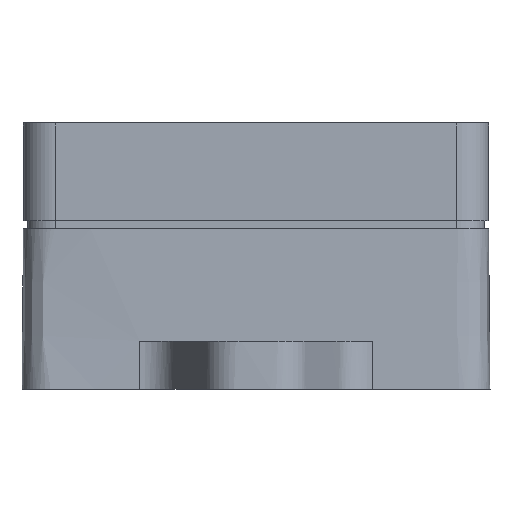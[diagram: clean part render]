
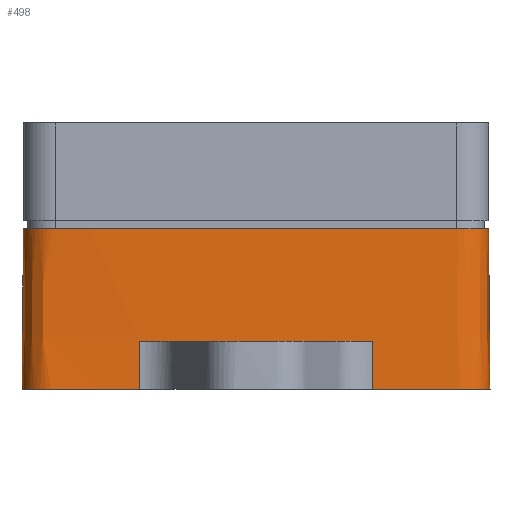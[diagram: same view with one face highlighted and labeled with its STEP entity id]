
A CAD part, left-side view. The second image highlights one B-rep face of the part: STEP entity #498.
In plain terms, the highlighted free-form (B-spline) face has degree [3, 2] with [4, 11] control points.
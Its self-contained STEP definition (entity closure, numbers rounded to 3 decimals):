
#498=ADVANCED_FACE('',(#2118),#25755,.T.);
#2118=FACE_OUTER_BOUND('',#3758,.T.);
#3758=EDGE_LOOP('',(#6687,#6688,#6689,#6690,#6691,#6692,#6693,#6694));
#6687=ORIENTED_EDGE('',*,*,#15810,.T.);
#6688=ORIENTED_EDGE('',*,*,#15812,.T.);
#6689=ORIENTED_EDGE('',*,*,#14602,.T.);
#6690=ORIENTED_EDGE('',*,*,#14631,.F.);
#6691=ORIENTED_EDGE('',*,*,#14604,.T.);
#6692=ORIENTED_EDGE('',*,*,#14793,.T.);
#6693=ORIENTED_EDGE('',*,*,#14627,.F.);
#6694=ORIENTED_EDGE('',*,*,#14629,.T.);
#14602=EDGE_CURVE('',#23145,#23143,#19583,.T.);
#14604=EDGE_CURVE('',#23144,#23146,#19584,.T.);
#14627=EDGE_CURVE('',#23158,#23159,#18390,.T.);
#14629=EDGE_CURVE('',#23158,#23933,#18392,.T.);
#14631=EDGE_CURVE('',#23144,#23143,#19592,.T.);
#14793=EDGE_CURVE('',#23146,#23159,#18440,.T.);
#15810=EDGE_CURVE('',#23933,#23934,#18479,.T.);
#15812=EDGE_CURVE('',#23934,#23145,#18481,.T.);
#18390=(
BOUNDED_CURVE()
B_SPLINE_CURVE(3,(#46001,#46002,#46003,#46004),.UNSPECIFIED.,.F.,.F.)
B_SPLINE_CURVE_WITH_KNOTS((4,4),(0.,4.472),.UNSPECIFIED.)
CURVE()
GEOMETRIC_REPRESENTATION_ITEM()
RATIONAL_B_SPLINE_CURVE((1.,1.,1.,1.))
REPRESENTATION_ITEM('')
);
#18392=(
BOUNDED_CURVE()
B_SPLINE_CURVE(2,(#46012,#46013,#46014,#46015,#46016,#46017,#46018,#46019,
#46020,#46021,#46022),.UNSPECIFIED.,.F.,.F.)
B_SPLINE_CURVE_WITH_KNOTS((3,2,2,2,2,3),(-276.833,-238.583,
-232.3,-181.95,-175.667,-137.413),
 .UNSPECIFIED.)
CURVE()
GEOMETRIC_REPRESENTATION_ITEM()
RATIONAL_B_SPLINE_CURVE((1.,1.,1.,0.707,1.,1.,1.,0.707,
1.,1.,1.))
REPRESENTATION_ITEM('')
);
#18440=(
BOUNDED_CURVE()
B_SPLINE_CURVE(2,(#46428,#46429,#46430,#46431,#46432,#46433,#46434),
 .UNSPECIFIED.,.F.,.F.)
B_SPLINE_CURVE_WITH_KNOTS((3,2,2,3),(221.625,232.3,
238.583,276.833),.UNSPECIFIED.)
CURVE()
GEOMETRIC_REPRESENTATION_ITEM()
RATIONAL_B_SPLINE_CURVE((1.,1.,1.,0.707,1.,1.,1.))
REPRESENTATION_ITEM('')
);
#18479=(
BOUNDED_CURVE()
B_SPLINE_CURVE(3,(#48575,#48576,#48577,#48578),.UNSPECIFIED.,.F.,.F.)
B_SPLINE_CURVE_WITH_KNOTS((4,4),(0.,4.472),.UNSPECIFIED.)
CURVE()
GEOMETRIC_REPRESENTATION_ITEM()
RATIONAL_B_SPLINE_CURVE((1.,1.,1.,1.))
REPRESENTATION_ITEM('')
);
#18481=(
BOUNDED_CURVE()
B_SPLINE_CURVE(2,(#48590,#48591,#48592,#48593,#48594,#48595,#48596),
 .UNSPECIFIED.,.F.,.F.)
B_SPLINE_CURVE_WITH_KNOTS((3,2,2,3),(137.413,175.667,
181.95,192.625),.UNSPECIFIED.)
CURVE()
GEOMETRIC_REPRESENTATION_ITEM()
RATIONAL_B_SPLINE_CURVE((1.,1.,1.,0.707,1.,1.,1.))
REPRESENTATION_ITEM('')
);
#19583=B_SPLINE_CURVE_WITH_KNOTS('',1,(#45844,#45845),.UNSPECIFIED.,.F.,
 .F.,(2,2),(0.,6.),.UNSPECIFIED.);
#19584=B_SPLINE_CURVE_WITH_KNOTS('',1,(#45861,#45862),.UNSPECIFIED.,.F.,
 .F.,(2,2),(-6.,0.),.UNSPECIFIED.);
#19592=B_SPLINE_CURVE_WITH_KNOTS('',1,(#46025,#46026),.UNSPECIFIED.,.F.,
 .F.,(2,2),(-29.,0.),.UNSPECIFIED.);
#23143=VERTEX_POINT('',#44835);
#23144=VERTEX_POINT('',#44836);
#23145=VERTEX_POINT('',#44837);
#23146=VERTEX_POINT('',#44838);
#23158=VERTEX_POINT('',#44850);
#23159=VERTEX_POINT('',#44851);
#23933=VERTEX_POINT('',#45625);
#23934=VERTEX_POINT('',#45626);
#25755=(
BOUNDED_SURFACE()
B_SPLINE_SURFACE(3,2,((#43929,#43930,#43931,#43932,#43933,#43934,#43935,
#43936,#43937,#43938,#43939),(#43940,#43941,#43942,#43943,#43944,#43945,
#43946,#43947,#43948,#43949,#43950),(#43951,#43952,#43953,#43954,#43955,
#43956,#43957,#43958,#43959,#43960,#43961),(#43962,#43963,#43964,#43965,
#43966,#43967,#43968,#43969,#43970,#43971,#43972)),.UNSPECIFIED.,.F.,.F.,
 .F.)
B_SPLINE_SURFACE_WITH_KNOTS((4,4),(3,2,2,2,2,3),(0.,4.472),(137.413,
175.667,181.95,232.3,238.583,276.833),
 .UNSPECIFIED.)
GEOMETRIC_REPRESENTATION_ITEM()
RATIONAL_B_SPLINE_SURFACE(((1.,1.,1.,0.707,1.,1.,1.,0.707,
1.,1.,1.),(1.,1.,1.,0.707,1.,1.,1.,0.707,1.,1.,
1.),(1.,1.,1.,0.707,1.,1.,1.,0.707,1.,1.,1.),(1.,
1.,1.,0.707,1.,1.,1.,0.707,1.,1.,1.)))
REPRESENTATION_ITEM('')
SURFACE()
);
#43929=CARTESIAN_POINT('',(0.5,29.,14.));
#43930=CARTESIAN_POINT('',(-18.5,29.,14.));
#43931=CARTESIAN_POINT('',(-37.5,29.,14.));
#43932=CARTESIAN_POINT('',(-41.5,29.,14.));
#43933=CARTESIAN_POINT('',(-41.5,25.,14.));
#43934=CARTESIAN_POINT('',(-41.5,0.,14.));
#43935=CARTESIAN_POINT('',(-41.5,-25.,14.));
#43936=CARTESIAN_POINT('',(-41.5,-29.,14.));
#43937=CARTESIAN_POINT('',(-37.5,-29.,14.));
#43938=CARTESIAN_POINT('',(-18.5,-29.,14.));
#43939=CARTESIAN_POINT('',(0.5,-29.,14.));
#43940=CARTESIAN_POINT('',(0.501,29.058,7.333));
#43941=CARTESIAN_POINT('',(-18.541,29.058,7.333));
#43942=CARTESIAN_POINT('',(-37.583,29.058,7.333));
#43943=CARTESIAN_POINT('',(-41.583,29.058,7.333));
#43944=CARTESIAN_POINT('',(-41.583,25.058,7.333));
#43945=CARTESIAN_POINT('',(-41.583,0.,7.333));
#43946=CARTESIAN_POINT('',(-41.583,-25.058,7.333));
#43947=CARTESIAN_POINT('',(-41.583,-29.058,7.333));
#43948=CARTESIAN_POINT('',(-37.583,-29.058,7.333));
#43949=CARTESIAN_POINT('',(-18.542,-29.058,7.333));
#43950=CARTESIAN_POINT('',(0.5,-29.058,7.333));
#43951=CARTESIAN_POINT('',(0.502,29.117,0.667));
#43952=CARTESIAN_POINT('',(-18.582,29.117,0.667));
#43953=CARTESIAN_POINT('',(-37.667,29.117,0.667));
#43954=CARTESIAN_POINT('',(-41.667,29.117,0.667));
#43955=CARTESIAN_POINT('',(-41.667,25.117,0.667));
#43956=CARTESIAN_POINT('',(-41.667,0.,0.667));
#43957=CARTESIAN_POINT('',(-41.667,-25.117,0.667));
#43958=CARTESIAN_POINT('',(-41.667,-29.117,0.667));
#43959=CARTESIAN_POINT('',(-37.667,-29.117,0.667));
#43960=CARTESIAN_POINT('',(-18.583,-29.117,0.667));
#43961=CARTESIAN_POINT('',(0.5,-29.117,0.667));
#43962=CARTESIAN_POINT('',(0.503,29.175,-6.));
#43963=CARTESIAN_POINT('',(-18.623,29.175,-6.));
#43964=CARTESIAN_POINT('',(-37.75,29.175,-6.));
#43965=CARTESIAN_POINT('',(-41.75,29.175,-6.));
#43966=CARTESIAN_POINT('',(-41.75,25.175,-6.));
#43967=CARTESIAN_POINT('',(-41.75,0.,-6.));
#43968=CARTESIAN_POINT('',(-41.75,-25.175,-6.));
#43969=CARTESIAN_POINT('',(-41.75,-29.175,-6.));
#43970=CARTESIAN_POINT('',(-37.75,-29.175,-6.));
#43971=CARTESIAN_POINT('',(-18.625,-29.175,-6.));
#43972=CARTESIAN_POINT('',(0.5,-29.175,-6.));
#44835=CARTESIAN_POINT('',(-41.675,14.5,0.));
#44836=CARTESIAN_POINT('',(-41.675,-14.5,0.));
#44837=CARTESIAN_POINT('',(-41.75,14.5,-6.));
#44838=CARTESIAN_POINT('',(-41.75,-14.5,-6.));
#44850=CARTESIAN_POINT('',(0.5,-29.,14.));
#44851=CARTESIAN_POINT('',(0.5,-29.175,-6.));
#45625=CARTESIAN_POINT('',(0.5,29.,14.));
#45626=CARTESIAN_POINT('',(0.503,29.175,-6.));
#45844=CARTESIAN_POINT('',(-41.75,14.5,-6.));
#45845=CARTESIAN_POINT('',(-41.675,14.5,0.));
#45861=CARTESIAN_POINT('',(-41.675,-14.5,0.));
#45862=CARTESIAN_POINT('',(-41.75,-14.5,-6.));
#46001=CARTESIAN_POINT('',(0.5,-29.,14.));
#46002=CARTESIAN_POINT('',(0.5,-29.058,7.333));
#46003=CARTESIAN_POINT('',(0.5,-29.117,0.667));
#46004=CARTESIAN_POINT('',(0.5,-29.175,-6.));
#46012=CARTESIAN_POINT('',(0.5,-29.,14.));
#46013=CARTESIAN_POINT('',(-18.5,-29.,14.));
#46014=CARTESIAN_POINT('',(-37.5,-29.,14.));
#46015=CARTESIAN_POINT('',(-41.5,-29.,14.));
#46016=CARTESIAN_POINT('',(-41.5,-25.,14.));
#46017=CARTESIAN_POINT('',(-41.5,0.,14.));
#46018=CARTESIAN_POINT('',(-41.5,25.,14.));
#46019=CARTESIAN_POINT('',(-41.5,29.,14.));
#46020=CARTESIAN_POINT('',(-37.5,29.,14.));
#46021=CARTESIAN_POINT('',(-18.5,29.,14.));
#46022=CARTESIAN_POINT('',(0.5,29.,14.));
#46025=CARTESIAN_POINT('',(-41.675,-14.5,0.));
#46026=CARTESIAN_POINT('',(-41.675,14.5,0.));
#46428=CARTESIAN_POINT('',(-41.75,-14.5,-6.));
#46429=CARTESIAN_POINT('',(-41.75,-19.838,-6.));
#46430=CARTESIAN_POINT('',(-41.75,-25.175,-6.));
#46431=CARTESIAN_POINT('',(-41.75,-29.175,-6.));
#46432=CARTESIAN_POINT('',(-37.75,-29.175,-6.));
#46433=CARTESIAN_POINT('',(-18.625,-29.175,-6.));
#46434=CARTESIAN_POINT('',(0.5,-29.175,-6.));
#48575=CARTESIAN_POINT('',(0.5,29.,14.));
#48576=CARTESIAN_POINT('',(0.501,29.058,7.333));
#48577=CARTESIAN_POINT('',(0.502,29.117,0.667));
#48578=CARTESIAN_POINT('',(0.503,29.175,-6.));
#48590=CARTESIAN_POINT('',(0.503,29.175,-6.));
#48591=CARTESIAN_POINT('',(-18.623,29.175,-6.));
#48592=CARTESIAN_POINT('',(-37.75,29.175,-6.));
#48593=CARTESIAN_POINT('',(-41.75,29.175,-6.));
#48594=CARTESIAN_POINT('',(-41.75,25.175,-6.));
#48595=CARTESIAN_POINT('',(-41.75,19.838,-6.));
#48596=CARTESIAN_POINT('',(-41.75,14.5,-6.));
